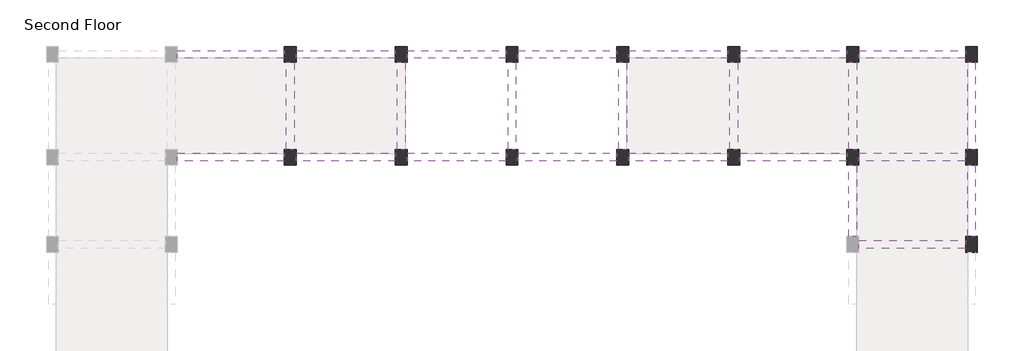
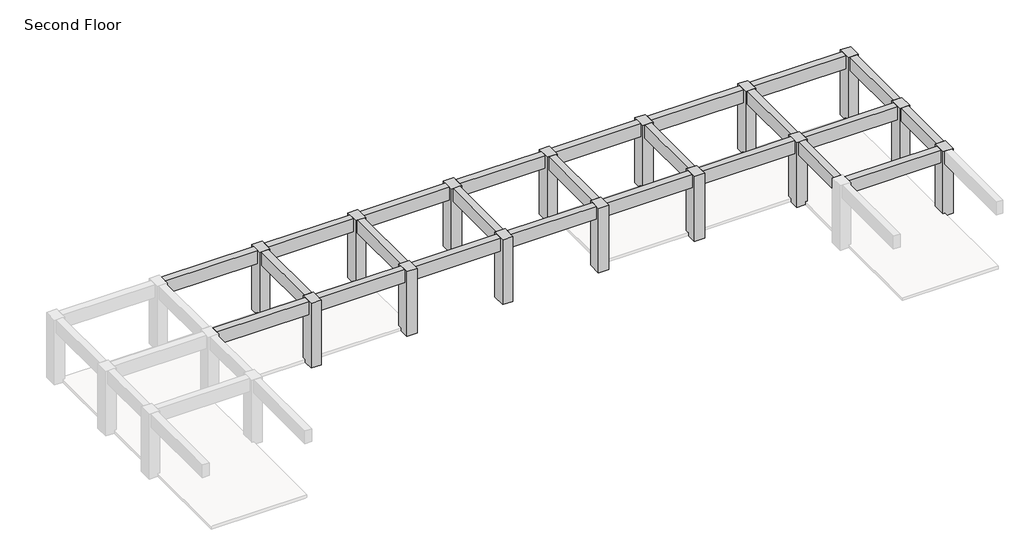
# One storey, part 2 of 2: 24 beams, 15 columns.
"""IFC4 building model written with IfcOpenShell, lengths in millimetres."""

import ifcopenshell
import ifcopenshell.guid

model = None  # the IFC model being written
_history = None  # IfcOwnerHistory: only IFC2X3 demands one
_inside = {}  # id of a spatial element -> (the spatial element, [elements in it])
_under = {}  # id of a project, library or spatial element -> (it, [spatial elements below it])
_declared = {}  # id of a project -> (the project, [libraries it declares])
_typed = {}  # id of a type object -> (the type object, [elements of that type])
_made_of = {}  # id of a material, layer set ... -> (it, [elements and type objects made of it])


def new_model(schema):
    """Start an empty IFC model of exactly this schema.

    Asked for "IFC4X3", IfcOpenShell would pick the latest addendum, in which some entities
    have other attributes; the version numbers below select the first issue.
    IFC2X3 requires an IfcOwnerHistory on every rooted entity: one is made here for all.
    """
    global model, _history
    if schema == "IFC4X3":
        model = ifcopenshell.file(schema_version=(4, 3, 0, 0))
    else:
        model = ifcopenshell.file(schema=schema)
    _inside.clear()
    _under.clear()
    _declared.clear()
    _typed.clear()
    _made_of.clear()
    _history = None
    if model.schema == "IFC2X3":
        org = make("IfcOrganization", Name="unknown")
        user = make(
            "IfcPersonAndOrganization",
            ThePerson=make("IfcPerson", FamilyName="unknown"),
            TheOrganization=org,
        )
        app = make(
            "IfcApplication",
            ApplicationDeveloper=org,
            Version="unknown",
            ApplicationFullName="unknown",
            ApplicationIdentifier="unknown",
        )
        _history = make(
            "IfcOwnerHistory",
            OwningUser=user,
            OwningApplication=app,
            ChangeAction="ADDED",
            CreationDate=0,
        )
    return model


def make(cls, **values):
    """One entity of the class cls with the attributes given. An attribute that is None is left unset."""
    return model.create_entity(
        cls, **{name: value for name, value in values.items() if value is not None}
    )


def rooted(cls, **values):
    """An entity with a GlobalId (a new one), such as an element, a storey or a relation."""
    return make(cls, GlobalId=ifcopenshell.guid.new(), OwnerHistory=_history, **values)


def si_unit(unit_type, name, prefix=None):
    """IfcSIUnit, for example si_unit("LENGTHUNIT", "METRE", prefix="MILLI")."""
    return make("IfcSIUnit", UnitType=unit_type, Prefix=prefix, Name=name)


def assignment(units):
    """IfcUnitAssignment: the units of a project."""
    return None if units is None else make("IfcUnitAssignment", Units=units)


def point(xyz):
    """IfcCartesianPoint."""
    return None if xyz is None else make("IfcCartesianPoint", Coordinates=xyz)


def direction(xyz):
    """IfcDirection."""
    return None if xyz is None else make("IfcDirection", DirectionRatios=xyz)


def frame(location, z_axis=None, x_axis=None):
    """IfcAxis2Placement3D, a coordinate frame: its origin and axes. An axis left out is left unset."""
    return make(
        "IfcAxis2Placement3D",
        Location=point(location),
        Axis=direction(z_axis),
        RefDirection=direction(x_axis),
    )


def origin():
    """The frame at (0, 0, 0) with its axes left unset."""
    return frame((0.0, 0.0, 0.0))


def place(relative_to, where):
    """IfcLocalPlacement: puts the frame where relative to a parent placement (None: the world)."""
    return make(
        "IfcLocalPlacement", PlacementRelTo=relative_to, RelativePlacement=where
    )


def context(
    kind, dimensions, precision=None, world=None, true_north=None, identifier=None
):
    """IfcGeometricRepresentationContext, for example the 3D "Model" context."""
    return make(
        "IfcGeometricRepresentationContext",
        ContextIdentifier=identifier,
        ContextType=kind,
        CoordinateSpaceDimension=dimensions,
        Precision=precision,
        WorldCoordinateSystem=world,
        TrueNorth=true_north,
    )


def project(units=None, contexts=None):
    """IfcProject with its units and contexts."""
    return rooted(
        "IfcProject",
        Name="project",
        RepresentationContexts=contexts,
        UnitsInContext=assignment(units),
    )


def spatial(cls, under=None, at=None, **own):
    """A site, building, storey or space (cls), placed at a placement, below another one or the project."""
    s = rooted(cls, ObjectPlacement=at, **own)
    if under is not None:
        _under.setdefault(under.id(), (under, []))[1].append(s)
    return s


def polyline(points):
    """IfcPolyline through the points."""
    return make("IfcPolyline", Points=[point(p) for p in points])


def outline(outer, holes=None, kind="AREA"):
    """IfcArbitraryClosedProfileDef: a profile drawn as a closed curve; with holes, ...WithVoids."""
    if holes is None:
        return make("IfcArbitraryClosedProfileDef", ProfileType=kind, OuterCurve=outer)
    return make(
        "IfcArbitraryProfileDefWithVoids",
        ProfileType=kind,
        OuterCurve=outer,
        InnerCurves=holes,
    )


def extrude(swept, where, along, depth):
    """IfcExtrudedAreaSolid: the profile swept, set in the frame where, extruded along a direction by depth."""
    return make(
        "IfcExtrudedAreaSolid",
        SweptArea=swept,
        Position=where,
        ExtrudedDirection=direction(along),
        Depth=depth,
    )


def faces_of(points, faces, orient=None, outer=None):
    """IfcFace entities. A face is a list of loops; a loop is a list of indices into points, from 0.

    orient and outer hold one flag for each loop. By default every Orientation is true, the
    first loop of a face is its IfcFaceOuterBound and the others are IfcFaceBound.
    """
    made = []
    for i, loops in enumerate(faces):
        bounds = []
        for j, loop in enumerate(loops):
            is_outer = j == 0 if outer is None else outer[i][j]
            bounds.append(
                make(
                    "IfcFaceOuterBound" if is_outer else "IfcFaceBound",
                    Bound=make("IfcPolyLoop", Polygon=[points[k] for k in loop]),
                    Orientation=True if orient is None else orient[i][j],
                )
            )
        made.append(make("IfcFace", Bounds=bounds))
    return made


def faceted_brep(points, faces, orient=None, outer=None, voids=None):
    """IfcFacetedBrep: a solid bounded by flat faces; with voids (closed shells), ...WithVoids."""
    shared = [point(p) for p in points]
    hull = make("IfcClosedShell", CfsFaces=faces_of(shared, faces, orient, outer))
    if voids is None:
        return make("IfcFacetedBrep", Outer=hull)
    return make(
        "IfcFacetedBrepWithVoids",
        Outer=hull,
        Voids=[
            make(cls, CfsFaces=faces_of(shared, fs, o, b)) for cls, fs, o, b in voids
        ],
    )


def shape(context_of_items, identifier, shape_type, items):
    """IfcShapeRepresentation: the items that make up one representation, for example the "Body"."""
    return make(
        "IfcShapeRepresentation",
        ContextOfItems=context_of_items,
        RepresentationIdentifier=identifier,
        RepresentationType=shape_type,
        Items=items,
    )


def made_of(thing, what):
    """Note that an element or type object is made of a material, layer set ...; save() writes the relation."""
    if what is not None:
        _made_of.setdefault(what.id(), (what, []))[1].append(thing)
    return thing


def element(
    cls,
    number,
    at=None,
    inside=None,
    cuts=None,
    type_object=None,
    material=None,
    context=None,
    identifier="Body",
    shape_type=None,
    held_by="IfcProductDefinitionShape",
    body=None,
    shapes=None,
    **own,
):
    """One element of the class cls, such as IfcWall. Its Tag is "e" and its number.

    at: its placement. inside: the storey or other place that contains it. cuts: it is an
    opening in that element (IfcRelVoidsElement). A single representation is given by context,
    identifier, shape_type and body (its items); several are given by shapes. held_by: the class
    of the entity that holds the representations. save() writes the other relations.
    """
    e = rooted(cls, Tag="e%d" % number, ObjectPlacement=at, **own)
    if body is not None:
        shapes = [shape(context, identifier, shape_type, body)]
    if shapes is not None:
        e.Representation = make(held_by, Representations=shapes)
    if inside is not None:
        _inside.setdefault(inside.id(), (inside, []))[1].append(e)
    if cuts is not None:
        rooted(
            "IfcRelVoidsElement", RelatingBuildingElement=cuts, RelatedOpeningElement=e
        )
    if type_object is not None:
        _typed.setdefault(type_object.id(), (type_object, []))[1].append(e)
    return made_of(e, material)


def aggregate(whole, parts):
    """IfcRelAggregates: a whole, such as a stair, and the parts it consists of."""
    return rooted("IfcRelAggregates", RelatingObject=whole, RelatedObjects=parts)


def save(model, path):
    """Write the relations noted so far, then the file.

    IfcRelAggregates (storeys below a building ...), IfcRelContainedInSpatialStructure (elements
    in a storey), IfcRelDefinesByType, IfcRelAssociatesMaterial and IfcRelDeclares: one each for
    every whole, place, type object, material and project.
    """
    for whole, parts in _under.values():
        aggregate(whole, parts)
    for where, things in _inside.values():
        rooted(
            "IfcRelContainedInSpatialStructure",
            RelatedElements=things,
            RelatingStructure=where,
        )
    for kind, things in _typed.values():
        rooted("IfcRelDefinesByType", RelatedObjects=things, RelatingType=kind)
    for what, things in _made_of.values():
        rooted("IfcRelAssociatesMaterial", RelatedObjects=things, RelatingMaterial=what)
    for by, libraries in _declared.values():
        rooted("IfcRelDeclares", RelatingContext=by, RelatedDefinitions=libraries)
    model.write(path)


model = new_model("IFC4")

# Units and contexts
model_context = context("Model", 3, world=origin())
ifc_project = project(units=[si_unit("LENGTHUNIT", "METRE", prefix="MILLI")], contexts=[model_context])

# Site, building, storey
site = spatial("IfcSite", under=ifc_project)
building = spatial("IfcBuilding", under=site)
storey = spatial("IfcBuildingStorey", under=building, Name="Second Floor", Elevation=4267.2)

# Beams
placement = place(None, origin())
element("IfcBeam", 1, ObjectType="Concrete-Rectangular Beam : 12 x 24", at=placement, inside=storey, context=model_context, shape_type="SweptSolid", body=[
    extrude(outline(polyline([(-11678.9781752, 17712.9470864), (-11983.7781752, 17712.9470864), (-11983.7781752, 21065.7470864), (-11678.9781752, 21065.7470864), (-11678.9781752, 17712.9470864)])), frame((0.0, 0.0, 6705.6), z_axis=(0.0, 0.0, 1.0), x_axis=(1.0, 0.0, 0.0)), (0.0, 0.0, 1.0), 609.6),
])
element("IfcBeam", 2, ObjectType="Concrete-Rectangular Beam : 12 x 24", at=placement, inside=storey, context=model_context, shape_type="SweptSolid", body=[
    extrude(outline(polyline([(-7411.7781752, 21065.7470864), (-7106.9781752, 21065.7470864), (-7106.9781752, 17712.9470864), (-7411.7781752, 17712.9470864), (-7411.7781752, 21065.7470864)])), frame((0.0, 0.0, 6705.6), z_axis=(0.0, 0.0, 1.0), x_axis=(1.0, 0.0, 0.0)), (0.0, 0.0, 1.0), 609.6),
])
element("IfcBeam", 3, ObjectType="Concrete-Rectangular Beam : 12 x 24", at=placement, inside=storey, context=model_context, shape_type="SweptSolid", body=[
    extrude(outline(polyline([(-7030.7781752, 17255.7470864), (-7030.7781752, 17560.5470864), (-2915.9781752, 17560.5470864), (-2915.9781752, 17255.7470864), (-7030.7781752, 17255.7470864)])), frame((0.0, 0.0, 6705.6), z_axis=(0.0, 0.0, 1.0), x_axis=(1.0, 0.0, 0.0)), (0.0, 0.0, 1.0), 609.6),
])
element("IfcBeam", 4, ObjectType="Concrete-Rectangular Beam : 12 x 24", at=placement, inside=storey, context=model_context, shape_type="SweptSolid", body=[
    extrude(outline(polyline([(-7030.7781752, 13902.9470864), (-7030.7781752, 14207.7470864), (-2915.9781752, 14207.7470864), (-2915.9781752, 13902.9470864), (-7030.7781752, 13902.9470864)])), frame((0.0, 0.0, 6705.6), z_axis=(0.0, 0.0, 1.0), x_axis=(1.0, 0.0, 0.0)), (0.0, 0.0, 1.0), 609.6),
])
element("IfcBeam", 5, ObjectType="Concrete-Rectangular Beam : 12 x 24", at=placement, inside=storey, context=model_context, shape_type="SweptSolid", body=[
    extrude(outline(polyline([(-20518.1781752, 21065.7470864), (-20213.3781752, 21065.7470864), (-20213.3781752, 17712.9470864), (-20518.1781752, 17712.9470864), (-20518.1781752, 21065.7470864)])), frame((0.0, 0.0, 6705.6), z_axis=(0.0, 0.0, 1.0), x_axis=(1.0, 0.0, 0.0)), (0.0, 0.0, 1.0), 609.6),
])
element("IfcBeam", 6, ObjectType="Concrete-Rectangular Beam : 12 x 24", at=placement, inside=storey, context=model_context, shape_type="SweptSolid", body=[
    extrude(outline(polyline([(-20137.1781752, 21218.1470864), (-20137.1781752, 21522.9470864), (-16327.1781752, 21522.9470864), (-16327.1781752, 21218.1470864), (-20137.1781752, 21218.1470864)])), frame((0.0, 0.0, 6705.6), z_axis=(0.0, 0.0, 1.0), x_axis=(1.0, 0.0, 0.0)), (0.0, 0.0, 1.0), 609.6),
])
element("IfcBeam", 7, ObjectType="Concrete-Rectangular Beam : 12 x 24", at=placement, inside=storey, context=model_context, shape_type="SweptSolid", body=[
    extrude(outline(polyline([(-15869.9781752, 21218.1470864), (-15869.9781752, 21522.9470864), (-12059.9781752, 21522.9470864), (-12059.9781752, 21218.1470864), (-15869.9781752, 21218.1470864)])), frame((0.0, 0.0, 6705.6), z_axis=(0.0, 0.0, 1.0), x_axis=(1.0, 0.0, 0.0)), (0.0, 0.0, 1.0), 609.6),
])
element("IfcBeam", 8, ObjectType="Concrete-Rectangular Beam : 12 x 24", at=placement, inside=storey, context=model_context, shape_type="SweptSolid", body=[
    extrude(outline(polyline([(-11602.7781752, 21218.1470864), (-11602.7781752, 21522.9470864), (-7487.9781752, 21522.9470864), (-7487.9781752, 21218.1470864), (-11602.7781752, 21218.1470864)])), frame((0.0, 0.0, 6705.6), z_axis=(0.0, 0.0, 1.0), x_axis=(1.0, 0.0, 0.0)), (0.0, 0.0, 1.0), 609.6),
])
element("IfcBeam", 9, ObjectType="Concrete-Rectangular Beam : 12 x 24", at=placement, inside=storey, context=model_context, shape_type="SweptSolid", body=[
    extrude(outline(polyline([(-7030.7781752, 21218.1470864), (-7030.7781752, 21522.9470864), (-2915.9781752, 21522.9470864), (-2915.9781752, 21218.1470864), (-7030.7781752, 21218.1470864)])), frame((0.0, 0.0, 6705.6), z_axis=(0.0, 0.0, 1.0), x_axis=(1.0, 0.0, 0.0)), (0.0, 0.0, 1.0), 609.6),
])
element("IfcBeam", 10, ObjectType="Concrete-Rectangular Beam : 12 x 24", at=placement, inside=storey, context=model_context, shape_type="SweptSolid", body=[
    extrude(outline(polyline([(-16250.9781752, 21065.7470864), (-15946.1781752, 21065.7470864), (-15946.1781752, 17712.9470864), (-16250.9781752, 17712.9470864), (-16250.9781752, 21065.7470864)])), frame((0.0, 0.0, 6705.6), z_axis=(0.0, 0.0, 1.0), x_axis=(1.0, 0.0, 0.0)), (0.0, 0.0, 1.0), 609.6),
])
element("IfcBeam", 11, ObjectType="Concrete-Rectangular Beam : 12 x 24", at=placement, inside=storey, context=model_context, shape_type="SweptSolid", body=[
    extrude(outline(polyline([(-2839.7781752, 21065.7470864), (-2534.9781752, 21065.7470864), (-2534.9781752, 17712.9470864), (-2839.7781752, 17712.9470864), (-2839.7781752, 21065.7470864)])), frame((0.0, 0.0, 6705.6), z_axis=(0.0, 0.0, 1.0), x_axis=(1.0, 0.0, 0.0)), (0.0, 0.0, 1.0), 609.6),
])
element("IfcBeam", 12, ObjectType="Concrete-Rectangular Beam : 12 x 24", at=placement, inside=storey, context=model_context, shape_type="SweptSolid", body=[
    extrude(outline(polyline([(-2839.7781752, 17103.3470864), (-2534.9781752, 17103.3470864), (-2534.9781752, 14360.1470864), (-2839.7781752, 14360.1470864), (-2839.7781752, 17103.3470864)])), frame((0.0, 0.0, 6705.6), z_axis=(0.0, 0.0, 1.0), x_axis=(1.0, 0.0, 0.0)), (0.0, 0.0, 1.0), 609.6),
])
element("IfcBeam", 13, ObjectType="Concrete-Rectangular Beam : 12 x 24", at=placement, inside=storey, context=model_context, shape_type="SweptSolid", body=[
    extrude(outline(polyline([(-7411.7781752, 17103.3470864), (-7106.9781752, 17103.3470864), (-7106.9781752, 14360.1470864), (-7411.7781752, 14360.1470864), (-7411.7781752, 17103.3470864)])), frame((0.0, 0.0, 6705.6), z_axis=(0.0, 0.0, 1.0), x_axis=(1.0, 0.0, 0.0)), (0.0, 0.0, 1.0), 609.6),
])
element("IfcBeam", 14, ObjectType="Concrete-Rectangular Beam : 12 x 24", at=placement, inside=storey, context=model_context, shape_type="SweptSolid", body=[
    extrude(outline(polyline([(-11602.7781752, 17255.7470864), (-11602.7781752, 17560.5470864), (-7487.9781752, 17560.5470864), (-7487.9781752, 17255.7470864), (-11602.7781752, 17255.7470864)])), frame((0.0, 0.0, 6705.6), z_axis=(0.0, 0.0, 1.0), x_axis=(1.0, 0.0, 0.0)), (0.0, 0.0, 1.0), 609.6),
])
element("IfcBeam", 15, ObjectType="Concrete-Rectangular Beam : 12 x 24", at=placement, inside=storey, context=model_context, shape_type="SweptSolid", body=[
    extrude(outline(polyline([(-20137.1781752, 17255.7470864), (-20137.1781752, 17560.5470864), (-16327.1781752, 17560.5470864), (-16327.1781752, 17255.7470864), (-20137.1781752, 17255.7470864)])), frame((0.0, 0.0, 6705.6), z_axis=(0.0, 0.0, 1.0), x_axis=(1.0, 0.0, 0.0)), (0.0, 0.0, 1.0), 609.6),
])
element("IfcBeam", 16, ObjectType="Concrete-Rectangular Beam : 12 x 24", at=placement, inside=storey, context=model_context, shape_type="SweptSolid", body=[
    extrude(outline(polyline([(-15869.9781752, 17255.7470864), (-15869.9781752, 17560.5470864), (-12059.9781752, 17560.5470864), (-12059.9781752, 17255.7470864), (-15869.9781752, 17255.7470864)])), frame((0.0, 0.0, 6705.6), z_axis=(0.0, 0.0, 1.0), x_axis=(1.0, 0.0, 0.0)), (0.0, 0.0, 1.0), 609.6),
])
element("IfcBeam", 17, ObjectType="Concrete-Rectangular Beam : 12 x 24", at=placement, inside=storey, context=model_context, shape_type="SweptSolid", body=[
    extrude(outline(polyline([(-28747.7781752, 17712.9470864), (-29052.5781752, 17712.9470864), (-29052.5781752, 21065.7470864), (-28747.7781752, 21065.7470864), (-28747.7781752, 17712.9470864)])), frame((0.0, 0.0, 6705.6), z_axis=(0.0, 0.0, 1.0), x_axis=(1.0, 0.0, 0.0)), (0.0, 0.0, 1.0), 609.6),
])
element("IfcBeam", 18, ObjectType="Concrete-Rectangular Beam : 12 x 24", at=placement, inside=storey, context=model_context, shape_type="SweptSolid", body=[
    extrude(outline(polyline([(-24404.3781752, 21218.1470864), (-24404.3781752, 21522.9470864), (-20594.3781752, 21522.9470864), (-20594.3781752, 21218.1470864), (-24404.3781752, 21218.1470864)])), frame((0.0, 0.0, 6705.6), z_axis=(0.0, 0.0, 1.0), x_axis=(1.0, 0.0, 0.0)), (0.0, 0.0, 1.0), 609.6),
])
element("IfcBeam", 19, ObjectType="Concrete-Rectangular Beam : 12 x 24", at=placement, inside=storey, context=model_context, shape_type="SweptSolid", body=[
    extrude(outline(polyline([(-24861.5781752, 21522.9470864), (-24861.5781752, 21218.1470864), (-28671.5781752, 21218.1470864), (-28671.5781752, 21522.9470864), (-24861.5781752, 21522.9470864)])), frame((0.0, 0.0, 6705.6), z_axis=(0.0, 0.0, 1.0), x_axis=(1.0, 0.0, 0.0)), (0.0, 0.0, 1.0), 609.6),
])
element("IfcBeam", 20, ObjectType="Concrete-Rectangular Beam : 12 x 24", at=placement, inside=storey, context=model_context, shape_type="SweptSolid", body=[
    extrude(outline(polyline([(-29128.7781752, 21522.9470864), (-29128.7781752, 21218.1470864), (-33243.5781752, 21218.1470864), (-33243.5781752, 21522.9470864), (-29128.7781752, 21522.9470864)])), frame((0.0, 0.0, 6705.6), z_axis=(0.0, 0.0, 1.0), x_axis=(1.0, 0.0, 0.0)), (0.0, 0.0, 1.0), 609.6),
])
element("IfcBeam", 21, ObjectType="Concrete-Rectangular Beam : 12 x 24", at=placement, inside=storey, context=model_context, shape_type="SweptSolid", body=[
    extrude(outline(polyline([(-24785.3781752, 21065.7470864), (-24480.5781752, 21065.7470864), (-24480.5781752, 17712.9470864), (-24785.3781752, 17712.9470864), (-24785.3781752, 21065.7470864)])), frame((0.0, 0.0, 6705.6), z_axis=(0.0, 0.0, 1.0), x_axis=(1.0, 0.0, 0.0)), (0.0, 0.0, 1.0), 609.6),
])
element("IfcBeam", 22, ObjectType="Concrete-Rectangular Beam : 12 x 24", at=placement, inside=storey, context=model_context, shape_type="SweptSolid", body=[
    extrude(outline(polyline([(-29128.7781752, 17560.5470864), (-29128.7781752, 17255.7470864), (-33243.5781752, 17255.7470864), (-33243.5781752, 17560.5470864), (-29128.7781752, 17560.5470864)])), frame((0.0, 0.0, 6705.6), z_axis=(0.0, 0.0, 1.0), x_axis=(1.0, 0.0, 0.0)), (0.0, 0.0, 1.0), 609.6),
])
element("IfcBeam", 23, ObjectType="Concrete-Rectangular Beam : 12 x 24", at=placement, inside=storey, context=model_context, shape_type="SweptSolid", body=[
    extrude(outline(polyline([(-24861.5781752, 17560.5470864), (-24861.5781752, 17255.7470864), (-28671.5781752, 17255.7470864), (-28671.5781752, 17560.5470864), (-24861.5781752, 17560.5470864)])), frame((0.0, 0.0, 6705.6), z_axis=(0.0, 0.0, 1.0), x_axis=(1.0, 0.0, 0.0)), (0.0, 0.0, 1.0), 609.6),
])
element("IfcBeam", 24, ObjectType="Concrete-Rectangular Beam : 12 x 24", at=placement, inside=storey, context=model_context, shape_type="SweptSolid", body=[
    extrude(outline(polyline([(-20594.3781752, 17560.5470864), (-20594.3781752, 17255.7470864), (-24404.3781752, 17255.7470864), (-24404.3781752, 17560.5470864), (-20594.3781752, 17560.5470864)])), frame((0.0, 0.0, 6705.6), z_axis=(0.0, 0.0, 1.0), x_axis=(1.0, 0.0, 0.0)), (0.0, 0.0, 1.0), 609.6),
])

# Columns
element("IfcColumn", 25, ObjectType="Concrete-Rectangular-Column : 18 x 24", at=placement, inside=storey, context=model_context, shape_type="SweptSolid", body=[
    extrude(outline(polyline([(-20137.1781752, 21675.3470864), (-20137.1781752, 21065.7470864), (-20594.3781752, 21065.7470864), (-20594.3781752, 21675.3470864), (-20137.1781752, 21675.3470864)])), frame((0.0, 0.0, 4267.2), z_axis=(0.0, 0.0, 1.0), x_axis=(1.0, 0.0, 0.0)), (0.0, 0.0, 1.0), 3048.0),
])
element("IfcColumn", 26, ObjectType="Concrete-Rectangular-Column : 18 x 24", at=placement, inside=storey, context=model_context, shape_type="Brep", body=[
    faceted_brep([(-16327.1781752, 21065.7470864, 4267.2), (-16327.1781752, 21675.3470864, 4267.2), (-15869.9781752, 21675.3470864, 4267.2), (-15869.9781752, 21218.1470864, 4267.2), (-15946.1781752, 21218.1470864, 4267.2), (-15946.1781752, 21065.7470864, 4267.2), (-15869.9781752, 21675.3470864, 7315.2), (-15869.9781752, 21065.7470864, 7315.2), (-15869.9781752, 21065.7470864, 4394.2), (-15869.9781752, 21218.1470864, 4394.2), (-16327.1781752, 21065.7470864, 7315.2), (-15946.1781752, 21065.7470864, 4394.2), (-16327.1781752, 21675.3470864, 7315.2), (-15946.1781752, 21218.1470864, 4394.2)], [[[0, 1, 2, 3, 4, 5]], [[6, 7, 8, 9, 3, 2]], [[7, 10, 0, 5, 11, 8]], [[1, 0, 10, 12]], [[2, 1, 12, 6]], [[7, 6, 12, 10]], [[11, 13, 9, 8]], [[4, 13, 11, 5]], [[13, 4, 3, 9]]]),
])
element("IfcColumn", 27, ObjectType="Concrete-Rectangular-Column : 18 x 24", at=placement, inside=storey, context=model_context, shape_type="SweptSolid", body=[
    extrude(outline(polyline([(21065.7470864, 7315.2), (21675.3470864, 7315.2), (21675.3470864, 4267.2), (21218.1470864, 4267.2), (21218.1470864, 4394.2), (21065.7470864, 4394.2), (21065.7470864, 7315.2)])), frame((-12059.9781752, 0.0, 0.0), z_axis=(1.0, 0.0, 0.0), x_axis=(0.0, 1.0, 0.0)), (0.0, 0.0, 1.0), 457.2),
])
element("IfcColumn", 28, ObjectType="Concrete-Rectangular-Column : 18 x 24", at=placement, inside=storey, context=model_context, shape_type="Brep", body=[
    faceted_brep([(-7487.9781752, 21675.3470864, 4267.2), (-7030.7781752, 21675.3470864, 4267.2), (-7030.7781752, 21218.1470864, 4267.2), (-7337.9512179, 21218.1470864, 4267.2), (-7487.9781752, 21218.1470864, 4267.2), (-7030.7781752, 21675.3470864, 7315.2), (-7030.7781752, 21065.7470864, 7315.2), (-7030.7781752, 21065.7470864, 4394.2), (-7030.7781752, 21218.1470864, 4394.2), (-7487.9781752, 21065.7470864, 7315.2), (-7487.9781752, 21065.7470864, 4394.2), (-7487.9781752, 21675.3470864, 7315.2), (-7487.9781752, 21218.1470864, 4394.2), (-7337.9512179, 21675.3470864, 7315.2), (-7337.9512179, 21218.1470864, 4394.2)], [[[0, 1, 2, 3, 4]], [[5, 6, 7, 8, 2, 1]], [[6, 9, 10, 7]], [[9, 11, 0, 4, 12, 10]], [[1, 0, 11, 13, 5]], [[6, 5, 13, 11, 9]], [[12, 14, 8, 7, 10]], [[3, 14, 12, 4]], [[14, 3, 2, 8]]]),
])
element("IfcColumn", 29, ObjectType="Concrete-Rectangular-Column : 18 x 24", at=placement, inside=storey, context=model_context, shape_type="Brep", body=[
    faceted_brep([(-2458.7781752, 21675.3470864, 4267.2), (-2458.7781752, 21065.7470864, 4267.2), (-2839.7781752, 21065.7470864, 4267.2), (-2839.7781752, 21218.1470864, 4267.2), (-2915.9781752, 21218.1470864, 4267.2), (-2915.9781752, 21675.3470864, 4267.2), (-2458.7781752, 21675.3470864, 7315.2), (-2458.7781752, 21065.7470864, 7315.2), (-2915.9781752, 21065.7470864, 7315.2), (-2915.9781752, 21065.7470864, 4394.2), (-2839.7781752, 21065.7470864, 4394.2), (-2915.9781752, 21675.3470864, 7315.2), (-2915.9781752, 21218.1470864, 4394.2), (-2839.7781752, 21218.1470864, 4394.2)], [[[0, 1, 2, 3, 4, 5]], [[1, 0, 6, 7]], [[1, 7, 8, 9, 10, 2]], [[8, 11, 5, 4, 12, 9]], [[0, 5, 11, 6]], [[7, 6, 11, 8]], [[12, 13, 10, 9]], [[3, 13, 12, 4]], [[13, 3, 2, 10]]]),
])
element("IfcColumn", 30, ObjectType="Concrete-Rectangular-Column : 18 x 24", at=placement, inside=storey, context=model_context, shape_type="SweptSolid", body=[
    extrude(outline(polyline([(-20137.1781752, 17712.9470864), (-20137.1781752, 17103.3470864), (-20594.3781752, 17103.3470864), (-20594.3781752, 17712.9470864), (-20137.1781752, 17712.9470864)])), frame((0.0, 0.0, 4267.2), z_axis=(0.0, 0.0, 1.0), x_axis=(1.0, 0.0, 0.0)), (0.0, 0.0, 1.0), 3048.0),
])
element("IfcColumn", 31, ObjectType="Concrete-Rectangular-Column : 18 x 24", at=placement, inside=storey, context=model_context, shape_type="Brep", body=[
    faceted_brep([(-15869.9781752, 17103.3470864, 4267.2), (-16327.1781752, 17103.3470864, 4267.2), (-16327.1781752, 17712.9470864, 4267.2), (-15946.1781752, 17712.9470864, 4267.2), (-15946.1781752, 17560.5470864, 4267.2), (-15869.9781752, 17560.5470864, 4267.2), (-15869.9781752, 17712.9470864, 7315.2), (-15869.9781752, 17103.3470864, 7315.2), (-15869.9781752, 17560.5470864, 4394.2), (-15869.9781752, 17712.9470864, 4394.2), (-16327.1781752, 17103.3470864, 7315.2), (-16327.1781752, 17712.9470864, 7315.2), (-15946.1781752, 17712.9470864, 4394.2), (-15946.1781752, 17560.5470864, 4394.2)], [[[0, 1, 2, 3, 4, 5]], [[6, 7, 0, 5, 8, 9]], [[1, 0, 7, 10]], [[2, 1, 10, 11]], [[2, 11, 6, 9, 12, 3]], [[7, 6, 11, 10]], [[13, 12, 9, 8]], [[13, 4, 3, 12]], [[4, 13, 8, 5]]]),
])
element("IfcColumn", 32, ObjectType="Concrete-Rectangular-Column : 18 x 24", at=placement, inside=storey, context=model_context, shape_type="Brep", body=[
    faceted_brep([(-11602.7781752, 17103.3470864, 4267.2), (-12059.9781752, 17103.3470864, 4267.2), (-12059.9781752, 17560.5470864, 4267.2), (-11869.525863, 17560.5470864, 4267.2), (-11602.7781752, 17560.5470864, 4267.2), (-11602.7781752, 17712.9470864, 7315.2), (-11602.7781752, 17103.3470864, 7315.2), (-11602.7781752, 17560.5470864, 4394.2), (-11602.7781752, 17712.9470864, 4394.2), (-11869.525863, 17103.3470864, 7315.2), (-12059.9781752, 17103.3470864, 7315.2), (-12059.9781752, 17712.9470864, 7315.2), (-12059.9781752, 17712.9470864, 4394.2), (-12059.9781752, 17560.5470864, 4394.2), (-11869.525863, 17560.5470864, 4394.2)], [[[0, 1, 2, 3, 4]], [[5, 6, 0, 4, 7, 8]], [[1, 0, 6, 9, 10]], [[1, 10, 11, 12, 13, 2]], [[11, 5, 8, 12]], [[6, 5, 11, 10, 9]], [[7, 14, 13, 12, 8]], [[3, 14, 7, 4]], [[14, 3, 2, 13]]]),
])
element("IfcColumn", 33, ObjectType="Concrete-Rectangular-Column : 18 x 24", at=placement, inside=storey, context=model_context, shape_type="Brep", body=[
    faceted_brep([(-7106.9781752, 17103.3470864, 4267.2), (-7487.9781752, 17103.3470864, 4267.2), (-7487.9781752, 17560.5470864, 4267.2), (-7106.9781752, 17560.5470864, 4267.2), (-7030.7781752, 17712.9470864, 7315.2), (-7030.7781752, 17103.3470864, 7315.2), (-7030.7781752, 17103.3470864, 4394.2), (-7030.7781752, 17712.9470864, 4394.2), (-7411.7781752, 17103.3470864, 7315.2), (-7487.9781752, 17103.3470864, 7315.2), (-7106.9781752, 17103.3470864, 4394.2), (-7487.9781752, 17712.9470864, 7315.2), (-7487.9781752, 17712.9470864, 4394.2), (-7487.9781752, 17560.5470864, 4394.2), (-7106.9781752, 17560.5470864, 4394.2)], [[[0, 1, 2, 3]], [[4, 5, 6, 7]], [[5, 8, 9, 1, 0, 10, 6]], [[1, 9, 11, 12, 13, 2]], [[11, 4, 7, 12]], [[5, 4, 11, 9, 8]], [[10, 14, 13, 12, 7, 6]], [[3, 14, 10, 0]], [[14, 3, 2, 13]]]),
])
element("IfcColumn", 34, ObjectType="Concrete-Rectangular-Column : 18 x 24", at=placement, inside=storey, context=model_context, shape_type="Brep", body=[
    faceted_brep([(-2458.7781752, 17712.9470864, 4267.2), (-2458.7781752, 17103.3470864, 4267.2), (-2839.7781752, 17103.3470864, 4267.2), (-2839.7781752, 17107.3073578, 4267.2), (-2839.7781752, 17712.9470864, 4267.2), (-2458.7781752, 17712.9470864, 7315.2), (-2458.7781752, 17103.3470864, 7315.2), (-2915.9781752, 17103.3470864, 7315.2), (-2915.9781752, 17103.3470864, 4394.2), (-2839.7781752, 17103.3470864, 4394.2), (-2915.9781752, 17712.9470864, 7315.2), (-2915.9781752, 17712.9470864, 4394.2), (-2839.7781752, 17712.9470864, 4394.2), (-2839.7781752, 17107.3073578, 4394.2)], [[[0, 1, 2, 3, 4]], [[1, 0, 5, 6]], [[1, 6, 7, 8, 9, 2]], [[7, 10, 11, 8]], [[5, 0, 4, 12, 11, 10]], [[6, 5, 10, 7]], [[12, 13, 9, 8, 11]], [[3, 13, 12, 4]], [[13, 3, 2, 9]]]),
])
element("IfcColumn", 35, ObjectType="Concrete-Rectangular-Column : 18 x 24", at=placement, inside=storey, context=model_context, shape_type="Brep", body=[
    faceted_brep([(-2458.7781752, 14360.1470864, 4267.2), (-2458.7781752, 13750.5470864, 4267.2), (-2839.7781752, 13750.5470864, 4267.2), (-2839.7781752, 14203.6458879, 4267.2), (-2839.7781752, 14360.1470864, 4267.2), (-2458.7781752, 14360.1470864, 7315.2), (-2458.7781752, 13750.5470864, 7315.2), (-2915.9781752, 13750.5470864, 7315.2), (-2915.9781752, 13750.5470864, 4394.2), (-2839.7781752, 13750.5470864, 4394.2), (-2915.9781752, 14360.1470864, 7315.2), (-2915.9781752, 14360.1470864, 4394.2), (-2839.7781752, 14360.1470864, 4394.2), (-2839.7781752, 14203.6458879, 4394.2)], [[[0, 1, 2, 3, 4]], [[1, 0, 5, 6]], [[1, 6, 7, 8, 9, 2]], [[7, 10, 11, 8]], [[5, 0, 4, 12, 11, 10]], [[6, 5, 10, 7]], [[12, 13, 9, 8, 11]], [[3, 13, 12, 4]], [[13, 3, 2, 9]]]),
])
element("IfcColumn", 36, ObjectType="Concrete-Rectangular-Column : 18 x 24", at=placement, inside=storey, context=model_context, shape_type="Brep", body=[
    faceted_brep([(-24404.3781752, 21675.3470864, 4267.2), (-24404.3781752, 21065.7470864, 4267.2), (-24480.5781752, 21065.7470864, 4267.2), (-24480.5781752, 21218.1470864, 4267.2), (-24861.5781752, 21218.1470864, 4267.2), (-24861.5781752, 21675.3470864, 4267.2), (-24861.5781752, 21065.7470864, 7315.2), (-24861.5781752, 21675.3470864, 7315.2), (-24861.5781752, 21218.1470864, 4394.2), (-24861.5781752, 21065.7470864, 4394.2), (-24404.3781752, 21065.7470864, 7315.2), (-24480.5781752, 21065.7470864, 4394.2), (-24404.3781752, 21675.3470864, 7315.2), (-24404.3781752, 21667.2427877, 7315.2), (-24480.5781752, 21218.1470864, 4394.2)], [[[0, 1, 2, 3, 4, 5]], [[6, 7, 5, 4, 8, 9]], [[10, 6, 9, 11, 2, 1]], [[1, 0, 12, 13, 10]], [[0, 5, 7, 12]], [[7, 6, 10, 13, 12]], [[8, 14, 11, 9]], [[14, 3, 2, 11]], [[3, 14, 8, 4]]]),
])
element("IfcColumn", 37, ObjectType="Concrete-Rectangular-Column : 18 x 24", at=placement, inside=storey, context=model_context, shape_type="SweptSolid", body=[
    extrude(outline(polyline([(21065.7470864, 7315.2), (21675.3470864, 7315.2), (21675.3470864, 4267.2), (21218.1470864, 4267.2), (21218.1470864, 4394.2), (21065.7470864, 4394.2), (21065.7470864, 7315.2)])), frame((-29128.7781752, 0.0, 0.0), z_axis=(1.0, 0.0, 0.0), x_axis=(0.0, 1.0, 0.0)), (0.0, 0.0, 1.0), 457.2),
])
element("IfcColumn", 38, ObjectType="Concrete-Rectangular-Column : 18 x 24", at=placement, inside=storey, context=model_context, shape_type="Brep", body=[
    faceted_brep([(-24404.3781752, 17103.3470864, 4267.2), (-24861.5781752, 17103.3470864, 4267.2), (-24861.5781752, 17560.5470864, 4267.2), (-24480.5781752, 17560.5470864, 4267.2), (-24480.5781752, 17712.9470864, 4267.2), (-24404.3781752, 17712.9470864, 4267.2), (-24861.5781752, 17103.3470864, 7315.2), (-24861.5781752, 17712.9470864, 7315.2), (-24861.5781752, 17712.9470864, 4394.2), (-24861.5781752, 17560.5470864, 4394.2), (-24404.3781752, 17103.3470864, 7315.2), (-24404.3781752, 17712.9470864, 7315.2), (-24404.3781752, 17255.7470864, 7315.2), (-24480.5781752, 17712.9470864, 4394.2), (-24480.5781752, 17560.5470864, 4394.2)], [[[0, 1, 2, 3, 4, 5]], [[6, 7, 8, 9, 2, 1]], [[1, 0, 10, 6]], [[0, 5, 11, 12, 10]], [[11, 5, 4, 13, 8, 7]], [[7, 6, 10, 12, 11]], [[14, 9, 8, 13]], [[3, 14, 13, 4]], [[14, 3, 2, 9]]]),
])
element("IfcColumn", 39, ObjectType="Concrete-Rectangular-Column : 18 x 24", at=placement, inside=storey, context=model_context, shape_type="Brep", body=[
    faceted_brep([(-28671.5781752, 17103.3470864, 4267.2), (-29128.7781752, 17103.3470864, 4267.2), (-29128.7781752, 17560.5470864, 4267.2), (-28862.0304875, 17560.5470864, 4267.2), (-28671.5781752, 17560.5470864, 4267.2), (-29128.7781752, 17103.3470864, 7315.2), (-29128.7781752, 17712.9470864, 7315.2), (-29128.7781752, 17712.9470864, 4394.2), (-29128.7781752, 17560.5470864, 4394.2), (-28671.5781752, 17103.3470864, 7315.2), (-28671.5781752, 17560.5470864, 4394.2), (-28671.5781752, 17712.9470864, 4394.2), (-28671.5781752, 17712.9470864, 7315.2), (-28862.0304875, 17560.5470864, 4394.2)], [[[0, 1, 2, 3, 4]], [[5, 6, 7, 8, 2, 1]], [[1, 0, 9, 5]], [[9, 0, 4, 10, 11, 12]], [[6, 12, 11, 7]], [[6, 5, 9, 12]], [[10, 13, 8, 7, 11]], [[13, 3, 2, 8]], [[3, 13, 10, 4]]]),
])

save(model, "model.ifc")
